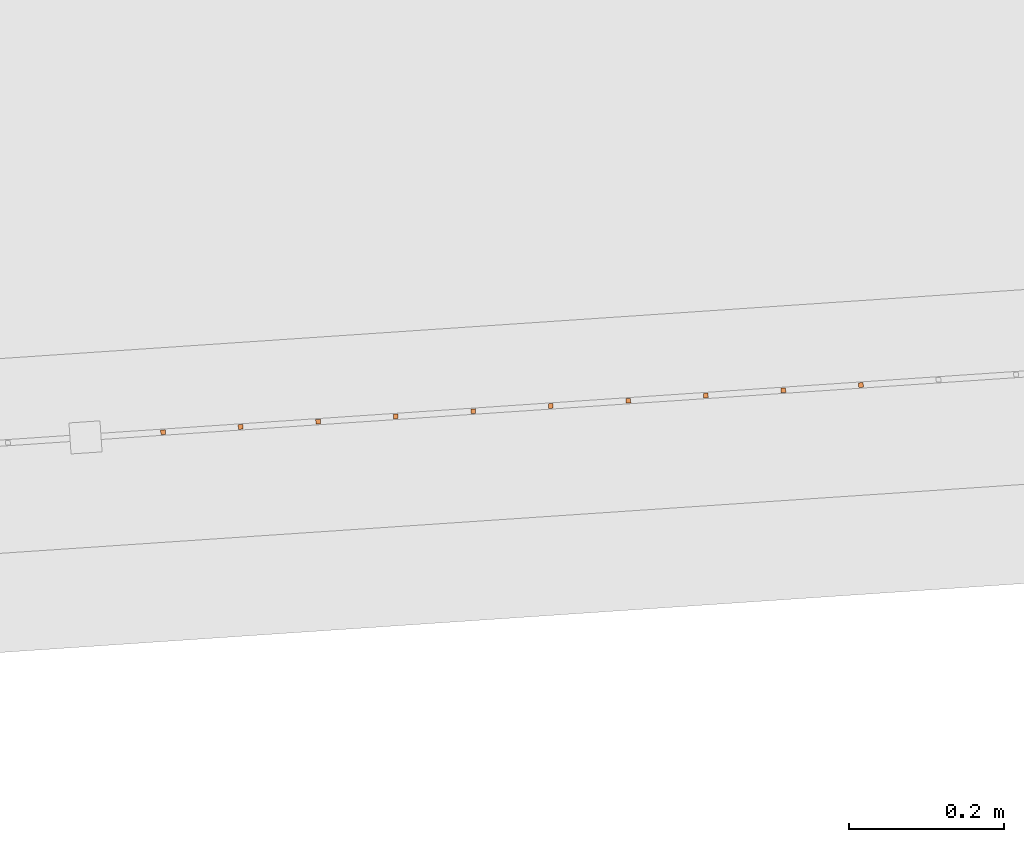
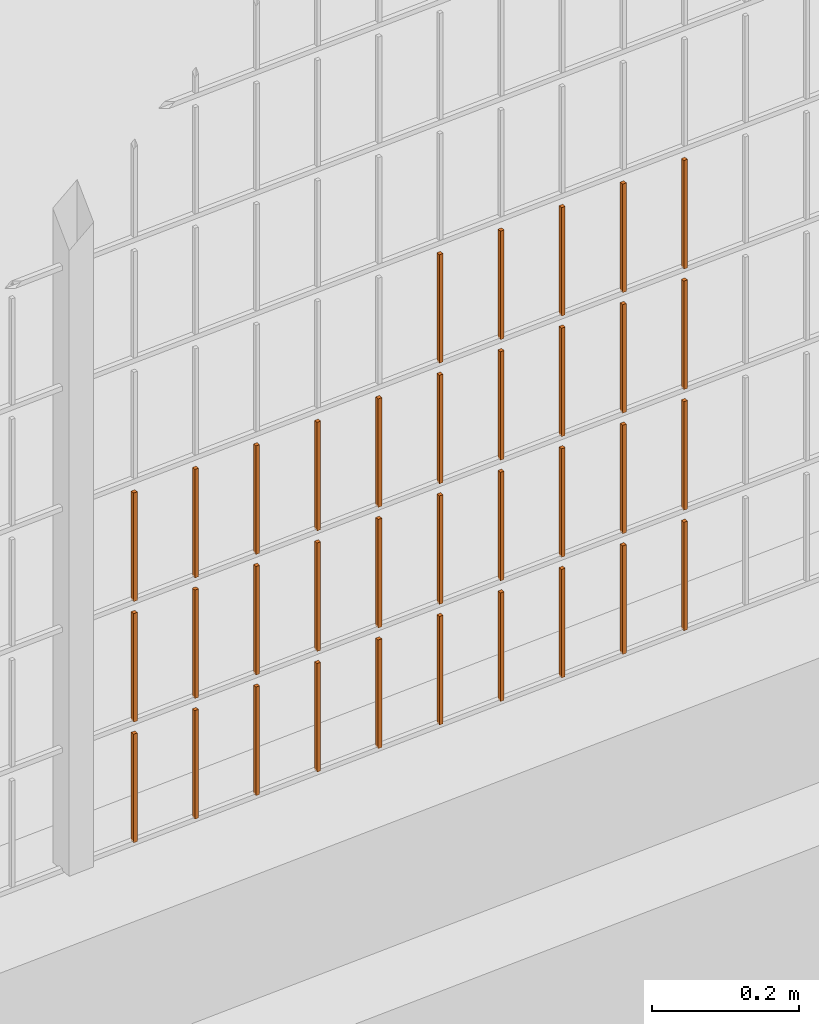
# One storey, part 277 of 1809: 35 proxies, 1 element without a shape of its own.
"""IFC2X3 building model written with IfcOpenShell, lengths in millimetres."""

from ifc_helpers import new_model, entity, si_unit, converted_unit, derived_unit, money_unit, direction, frame, origin_with_axes, place, context, subcontext, project, spatial, faceted_brep, source, transform, mapped, material, type_object, element, aggregate, save


model = new_model("IFC2X3")

# Units and contexts
model_context = context("Model", 3, precision=0.01, world=origin_with_axes(), true_north=direction((0.0, 1.0)))
body_context = subcontext(model_context, "Body", "Model", "MODEL_VIEW")
ifc_project = project(units=[si_unit("LENGTHUNIT", "METRE", prefix="MILLI"), si_unit("AREAUNIT", "SQUARE_METRE"), si_unit("VOLUMEUNIT", "CUBIC_METRE"), converted_unit("PLANEANGLEUNIT", "DEGREE", entity("IfcPlaneAngleMeasure", 0.0174532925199), si_unit("PLANEANGLEUNIT", "RADIAN"), dimensions=[0, 0, 0, 0, 0, 0, 0]), si_unit("SOLIDANGLEUNIT", "STERADIAN"), money_unit("EUR"), converted_unit("TIMEUNIT", "Year", entity("IfcTimeMeasure", 31556926.0), si_unit("TIMEUNIT", "SECOND"), dimensions=[0, 0, 1, 0, 0, 0, 0]), si_unit("MASSUNIT", "GRAM", prefix="KILO"), si_unit("THERMODYNAMICTEMPERATUREUNIT", "DEGREE_CELSIUS"), si_unit("LUMINOUSINTENSITYUNIT", "LUMEN"), si_unit("ENERGYUNIT", "JOULE", prefix="MEGA"), derived_unit("THERMALCONDUCTANCEUNIT", [(si_unit("POWERUNIT", "WATT"), 1), (si_unit("LENGTHUNIT", "METRE"), -1), (si_unit("THERMODYNAMICTEMPERATUREUNIT", "KELVIN"), -1)]), derived_unit("SPECIFICHEATCAPACITYUNIT", [(si_unit("ENERGYUNIT", "JOULE"), 1), (si_unit("MASSUNIT", "GRAM", prefix="KILO"), -1), (si_unit("THERMODYNAMICTEMPERATUREUNIT", "KELVIN"), -1)]), derived_unit("MASSDENSITYUNIT", [(si_unit("MASSUNIT", "GRAM", prefix="KILO"), 1), (si_unit("VOLUMEUNIT", "CUBIC_METRE"), -1)])], contexts=[model_context])

# Site, building, storey
site_placement = place(None, origin_with_axes())
site = spatial("IfcSite", under=ifc_project, at=site_placement, Name="Politse- ja Piirivalveameti ning Päästeameti ühishoone", CompositionType="ELEMENT")
building_placement = place(site_placement, origin_with_axes())
building = spatial("IfcBuilding", under=site, at=building_placement, Name="Politse- ja Piirivalveameti ning Päästeameti ühishoone", CompositionType="ELEMENT")
storey_placement = place(building_placement, origin_with_axes())
storey = spatial("IfcBuildingStorey", under=building, at=storey_placement, Name="Esimene korrus", CompositionType="ELEMENT", Elevation=0.0)

# Proxies
building_element_proxy_type_1 = type_object("IfcBuildingElementProxyType", Name="Railing Type", PredefinedType="NOTDEFINED")
proxy_1_placement = place(storey_placement, frame((89252.001212, -29183.4766571, 203.661247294), z_axis=(0.0, 0.0, 1.0), x_axis=(1.0, 0.0, 0.0)))
proxy_1 = element("IfcBuildingElementProxy", 1, at=proxy_1_placement, inside=storey, type_object=building_element_proxy_type_1, Name="PIIRDEAED")
ifc_material = material(Name="ET-03_Raud")
building_element_proxy_type_2 = type_object("IfcBuildingElementProxyType", Name="IfcBuildingElementProxy", PredefinedType="NOTDEFINED")
shared_shape_1 = source(origin_with_axes(), body_context, "Body", "Brep", [
    faceted_brep([(3.0, 3.0, -0.000752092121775), (-3.0, 3.0, -0.000752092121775), (-3.0, 3.0, 179.99926046), (3.0, 3.0, 179.99926046), (3.0, -3.0, 0.000752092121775), (-3.0, -3.0, 0.000752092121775), (-3.0, -3.0, 180.000764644), (3.0, -3.0, 180.000764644)], [[[0, 1, 2, 3]], [[0, 4, 5, 1]], [[1, 5, 6, 2]], [[3, 2, 6, 7]], [[4, 0, 3, 7]], [[5, 4, 7, 6]]]),
])
proxy_2_placement = place(proxy_1_placement, frame((-51908.4068673, -20803.9917502, 14.1914314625), z_axis=(0.0, 0.0, 1.0), x_axis=(1.0, 0.0, 0.0)))
proxy_2 = element("IfcBuildingElementProxy", 2, at=proxy_2_placement, type_object=building_element_proxy_type_2, material=ifc_material, Name="BALUSTER - 001", context=body_context, shape_type="MappedRepresentation", body=[
    mapped(shared_shape_1, transform((0.0, 0.0, 0.0), x_axis=(-0.0673926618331, 0.997726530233, 0.0), y_axis=(-0.997726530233, -0.0673926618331, 0.0), z_axis=(0.0, 0.0, 1.0))),
])
shared_shape_2 = source(origin_with_axes(), body_context, "Body", "Brep", [
    faceted_brep([(3.0, 3.0, -0.000752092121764), (-3.0, 3.0, -0.000752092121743), (-3.0, 3.0, 179.99926046), (3.0, 3.0, 179.99926046), (3.0, -3.0, 0.000752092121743), (-3.0, -3.0, 0.000752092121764), (-3.0, -3.0, 180.000764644), (3.0, -3.0, 180.000764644)], [[[0, 1, 2, 3]], [[0, 4, 5, 1]], [[1, 5, 6, 2]], [[3, 2, 6, 7]], [[4, 0, 3, 7]], [[5, 4, 7, 6]]]),
])
proxy_3_placement = place(proxy_1_placement, frame((-52008.1795203, -20810.7310164, 14.1663617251), z_axis=(0.0, 0.0, 1.0), x_axis=(1.0, 0.0, 0.0)))
proxy_3 = element("IfcBuildingElementProxy", 3, at=proxy_3_placement, type_object=building_element_proxy_type_2, material=ifc_material, Name="BALUSTER - 001", context=body_context, shape_type="MappedRepresentation", body=[
    mapped(shared_shape_2, transform((0.0, 0.0, 0.0), x_axis=(-0.0673926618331, 0.997726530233, 0.0), y_axis=(-0.997726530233, -0.0673926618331, 0.0), z_axis=(0.0, 0.0, 1.0))),
])
proxy_4_placement = place(proxy_1_placement, frame((-52008.1795203, -20810.7310164, 214.166361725), z_axis=(0.0, 0.0, 1.0), x_axis=(1.0, 0.0, 0.0)))
proxy_4 = element("IfcBuildingElementProxy", 4, at=proxy_4_placement, type_object=building_element_proxy_type_2, material=ifc_material, Name="BALUSTER - 001", context=body_context, shape_type="MappedRepresentation", body=[
    mapped(shared_shape_2, transform((0.0, 0.0, 0.0), x_axis=(-0.0673926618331, 0.997726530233, 0.0), y_axis=(-0.997726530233, -0.0673926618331, 0.0), z_axis=(0.0, 0.0, 1.0))),
])
shared_shape_3 = source(origin_with_axes(), body_context, "Body", "Brep", [
    faceted_brep([(3.0, 3.0, -0.000752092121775), (-3.0, 3.0, -0.000752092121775), (-3.0, 3.0, 179.99926046), (3.0, 3.0, 179.99926046), (3.0, -3.0, 0.000752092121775), (-3.0, -3.0, 0.000752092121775), (-3.0, -3.0, 180.000764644), (3.0, -3.0, 180.000764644)], [[[0, 1, 2, 3]], [[0, 4, 5, 1]], [[1, 5, 6, 2]], [[3, 2, 6, 7]], [[4, 0, 3, 7]], [[5, 4, 7, 6]]]),
])
proxy_5_placement = place(proxy_1_placement, frame((-51908.4068673, -20803.9917502, 414.191431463), z_axis=(0.0, 0.0, 1.0), x_axis=(1.0, 0.0, 0.0)))
proxy_5 = element("IfcBuildingElementProxy", 5, at=proxy_5_placement, type_object=building_element_proxy_type_2, material=ifc_material, Name="BALUSTER - 001", context=body_context, shape_type="MappedRepresentation", body=[
    mapped(shared_shape_3, transform((0.0, 0.0, 0.0), x_axis=(-0.0673926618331, 0.997726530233, 0.0), y_axis=(-0.997726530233, -0.0673926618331, 0.0), z_axis=(0.0, 0.0, 1.0))),
])
shared_shape_4 = source(origin_with_axes(), body_context, "Body", "Brep", [
    faceted_brep([(3.0, 3.0, -0.000752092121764), (-3.0, 3.0, -0.000752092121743), (-3.0, 3.0, 179.99926046), (3.0, 3.0, 179.99926046), (3.0, -3.0, 0.000752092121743), (-3.0, -3.0, 0.000752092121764), (-3.0, -3.0, 180.000764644), (3.0, -3.0, 180.000764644)], [[[0, 1, 2, 3]], [[0, 4, 5, 1]], [[1, 5, 6, 2]], [[3, 2, 6, 7]], [[4, 0, 3, 7]], [[5, 4, 7, 6]]]),
])
proxy_6_placement = place(proxy_1_placement, frame((-52008.1795203, -20810.7310164, 414.166361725), z_axis=(0.0, 0.0, 1.0), x_axis=(1.0, 0.0, 0.0)))
proxy_6 = element("IfcBuildingElementProxy", 6, at=proxy_6_placement, type_object=building_element_proxy_type_2, material=ifc_material, Name="BALUSTER - 001", context=body_context, shape_type="MappedRepresentation", body=[
    mapped(shared_shape_4, transform((0.0, 0.0, 0.0), x_axis=(-0.0673926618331, 0.997726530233, 0.0), y_axis=(-0.997726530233, -0.0673926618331, 0.0), z_axis=(0.0, 0.0, 1.0))),
])
shared_shape_5 = source(origin_with_axes(), body_context, "Body", "Brep", [
    faceted_brep([(3.0, 3.0, -0.000752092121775), (-3.0, 3.0, -0.000752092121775), (-3.0, 3.0, 179.99926046), (3.0, 3.0, 179.99926046), (3.0, -3.0, 0.000752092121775), (-3.0, -3.0, 0.000752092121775), (-3.0, -3.0, 180.000764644), (3.0, -3.0, 180.000764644)], [[[0, 1, 2, 3]], [[0, 4, 5, 1]], [[1, 5, 6, 2]], [[3, 2, 6, 7]], [[4, 0, 3, 7]], [[5, 4, 7, 6]]]),
])
proxy_7_placement = place(proxy_1_placement, frame((-51908.4068673, -20803.9917502, 214.191431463), z_axis=(0.0, 0.0, 1.0), x_axis=(1.0, 0.0, 0.0)))
proxy_7 = element("IfcBuildingElementProxy", 7, at=proxy_7_placement, type_object=building_element_proxy_type_2, material=ifc_material, Name="BALUSTER - 001", context=body_context, shape_type="MappedRepresentation", body=[
    mapped(shared_shape_5, transform((0.0, 0.0, 0.0), x_axis=(-0.0673926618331, 0.997726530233, 0.0), y_axis=(-0.997726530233, -0.0673926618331, 0.0), z_axis=(0.0, 0.0, 1.0))),
])
shared_shape_6 = source(origin_with_axes(), body_context, "Body", "Brep", [
    faceted_brep([(3.0, 3.0, -0.000752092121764), (-3.0, 3.0, -0.000752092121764), (-3.0, 3.0, 179.99926046), (3.0, 3.0, 179.99926046), (3.0, -3.0, 0.000752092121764), (-3.0, -3.0, 0.000752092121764), (-3.0, -3.0, 180.000764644), (3.0, -3.0, 180.000764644)], [[[0, 1, 2, 3]], [[0, 4, 5, 1]], [[1, 5, 6, 2]], [[3, 2, 6, 7]], [[4, 0, 3, 7]], [[5, 4, 7, 6]]]),
])
proxy_8_placement = place(proxy_1_placement, frame((-51409.5436022, -20770.2954193, 414.316780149), z_axis=(0.0, 0.0, 1.0), x_axis=(1.0, 0.0, 0.0)))
proxy_8 = element("IfcBuildingElementProxy", 8, at=proxy_8_placement, type_object=building_element_proxy_type_2, material=ifc_material, Name="BALUSTER - 001", context=body_context, shape_type="MappedRepresentation", body=[
    mapped(shared_shape_6, transform((0.0, 0.0, 0.0), x_axis=(-0.0673926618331, 0.997726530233, 0.0), y_axis=(-0.997726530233, -0.0673926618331, 0.0), z_axis=(0.0, 0.0, 1.0))),
])
proxy_9_placement = place(proxy_1_placement, frame((-52107.9521734, -20817.4702826, 414.141291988), z_axis=(0.0, 0.0, 1.0), x_axis=(1.0, 0.0, 0.0)))
proxy_9 = element("IfcBuildingElementProxy", 9, at=proxy_9_placement, type_object=building_element_proxy_type_2, material=ifc_material, Name="BALUSTER - 001", context=body_context, shape_type="MappedRepresentation", body=[
    mapped(shared_shape_6, transform((0.0, 0.0, 0.0), x_axis=(-0.0673926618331, 0.997726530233, 0.0), y_axis=(-0.997726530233, -0.0673926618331, 0.0), z_axis=(0.0, 0.0, 1.0))),
])
shared_shape_7 = source(origin_with_axes(), body_context, "Body", "Brep", [
    faceted_brep([(3.0, 3.0, -0.000752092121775), (-3.0, 3.0, -0.000752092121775), (-3.0, 3.0, 179.99926046), (3.0, 3.0, 179.99926046), (3.0, -3.0, 0.000752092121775), (-3.0, -3.0, 0.000752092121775), (-3.0, -3.0, 180.000764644), (3.0, -3.0, 180.000764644)], [[[0, 1, 2, 3]], [[0, 4, 5, 1]], [[1, 5, 6, 2]], [[3, 2, 6, 7]], [[4, 0, 3, 7]], [[5, 4, 7, 6]]]),
])
proxy_10_placement = place(proxy_1_placement, frame((-51708.8615613, -20790.5132179, 214.241570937), z_axis=(0.0, 0.0, 1.0), x_axis=(1.0, 0.0, 0.0)))
proxy_10 = element("IfcBuildingElementProxy", 10, at=proxy_10_placement, type_object=building_element_proxy_type_2, material=ifc_material, Name="BALUSTER - 001", context=body_context, shape_type="MappedRepresentation", body=[
    mapped(shared_shape_7, transform((0.0, 0.0, 0.0), x_axis=(-0.0673926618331, 0.997726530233, 0.0), y_axis=(-0.997726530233, -0.0673926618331, 0.0), z_axis=(0.0, 0.0, 1.0))),
])
shared_shape_8 = source(origin_with_axes(), body_context, "Body", "Brep", [
    faceted_brep([(3.0, 3.0, -0.000752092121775), (-3.0, 3.0, -0.000752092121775), (-3.0, 3.0, 179.99926046), (3.0, 3.0, 179.99926046), (3.0, -3.0, 0.000752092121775), (-3.0, -3.0, 0.000752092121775), (-3.0, -3.0, 180.000764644), (3.0, -3.0, 180.000764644)], [[[0, 1, 2, 3]], [[0, 4, 5, 1]], [[1, 5, 6, 2]], [[3, 2, 6, 7]], [[4, 0, 3, 7]], [[5, 4, 7, 6]]]),
])
proxy_11_placement = place(proxy_1_placement, frame((-51708.8615613, -20790.5132179, 414.241570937), z_axis=(0.0, 0.0, 1.0), x_axis=(1.0, 0.0, 0.0)))
proxy_11 = element("IfcBuildingElementProxy", 11, at=proxy_11_placement, type_object=building_element_proxy_type_2, material=ifc_material, Name="BALUSTER - 001", context=body_context, shape_type="MappedRepresentation", body=[
    mapped(shared_shape_8, transform((0.0, 0.0, 0.0), x_axis=(-0.0673926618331, 0.997726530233, 0.0), y_axis=(-0.997726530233, -0.0673926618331, 0.0), z_axis=(0.0, 0.0, 1.0))),
])
shared_shape_9 = source(origin_with_axes(), body_context, "Body", "Brep", [
    faceted_brep([(3.0, 3.0, -0.000752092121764), (-3.0, 3.0, -0.000752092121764), (-3.0, 3.0, 179.99926046), (3.0, 3.0, 179.99926046), (3.0, -3.0, 0.000752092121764), (-3.0, -3.0, 0.000752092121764), (-3.0, -3.0, 180.000764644), (3.0, -3.0, 180.000764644)], [[[0, 1, 2, 3]], [[0, 4, 5, 1]], [[1, 5, 6, 2]], [[3, 2, 6, 7]], [[4, 0, 3, 7]], [[5, 4, 7, 6]]]),
])
proxy_12_placement = place(proxy_1_placement, frame((-51309.7709492, -20763.5561531, 414.341849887), z_axis=(0.0, 0.0, 1.0), x_axis=(1.0, 0.0, 0.0)))
proxy_12 = element("IfcBuildingElementProxy", 12, at=proxy_12_placement, type_object=building_element_proxy_type_2, material=ifc_material, Name="BALUSTER - 001", context=body_context, shape_type="MappedRepresentation", body=[
    mapped(shared_shape_9, transform((0.0, 0.0, 0.0), x_axis=(-0.0673926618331, 0.997726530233, 0.0), y_axis=(-0.997726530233, -0.0673926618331, 0.0), z_axis=(0.0, 0.0, 1.0))),
])
proxy_13_placement = place(proxy_1_placement, frame((-51309.7709492, -20763.5561531, 614.341849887), z_axis=(0.0, 0.0, 1.0), x_axis=(1.0, 0.0, 0.0)))
proxy_13 = element("IfcBuildingElementProxy", 13, at=proxy_13_placement, type_object=building_element_proxy_type_2, material=ifc_material, Name="BALUSTER - 001", context=body_context, shape_type="MappedRepresentation", body=[
    mapped(shared_shape_9, transform((0.0, 0.0, 0.0), x_axis=(-0.0673926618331, 0.997726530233, 0.0), y_axis=(-0.997726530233, -0.0673926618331, 0.0), z_axis=(0.0, 0.0, 1.0))),
])
shared_shape_10 = source(origin_with_axes(), body_context, "Body", "Brep", [
    faceted_brep([(3.0, 3.0, -0.000752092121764), (-3.0, 3.0, -0.000752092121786), (-3.0, 3.0, 179.99926046), (3.0, 3.0, 179.99926046), (3.0, -3.0, 0.000752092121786), (-3.0, -3.0, 0.000752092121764), (-3.0, -3.0, 180.000764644), (3.0, -3.0, 180.000764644)], [[[0, 1, 2, 3]], [[0, 4, 5, 1]], [[1, 5, 6, 2]], [[3, 2, 6, 7]], [[4, 0, 3, 7]], [[5, 4, 7, 6]]]),
])
proxy_14_placement = place(proxy_1_placement, frame((-51609.0889082, -20783.7739517, 214.266640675), z_axis=(0.0, 0.0, 1.0), x_axis=(1.0, 0.0, 0.0)))
proxy_14 = element("IfcBuildingElementProxy", 14, at=proxy_14_placement, type_object=building_element_proxy_type_2, material=ifc_material, Name="BALUSTER - 001", context=body_context, shape_type="MappedRepresentation", body=[
    mapped(shared_shape_10, transform((0.0, 0.0, 0.0), x_axis=(-0.0673926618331, 0.997726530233, 0.0), y_axis=(-0.997726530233, -0.0673926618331, 0.0), z_axis=(0.0, 0.0, 1.0))),
])
proxy_15_placement = place(proxy_1_placement, frame((-51609.0889082, -20783.7739517, 414.266640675), z_axis=(0.0, 0.0, 1.0), x_axis=(1.0, 0.0, 0.0)))
proxy_15 = element("IfcBuildingElementProxy", 15, at=proxy_15_placement, type_object=building_element_proxy_type_2, material=ifc_material, Name="BALUSTER - 001", context=body_context, shape_type="MappedRepresentation", body=[
    mapped(shared_shape_10, transform((0.0, 0.0, 0.0), x_axis=(-0.0673926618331, 0.997726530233, 0.0), y_axis=(-0.997726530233, -0.0673926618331, 0.0), z_axis=(0.0, 0.0, 1.0))),
])
shared_shape_11 = source(origin_with_axes(), body_context, "Body", "Brep", [
    faceted_brep([(3.0, 3.0, -0.000752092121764), (-3.0, 3.0, -0.000752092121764), (-3.0, 3.0, 179.99926046), (3.0, 3.0, 179.99926046), (3.0, -3.0, 0.000752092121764), (-3.0, -3.0, 0.000752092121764), (-3.0, -3.0, 180.000764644), (3.0, -3.0, 180.000764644)], [[[0, 1, 2, 3]], [[0, 4, 5, 1]], [[1, 5, 6, 2]], [[3, 2, 6, 7]], [[4, 0, 3, 7]], [[5, 4, 7, 6]]]),
])
proxy_16_placement = place(proxy_1_placement, frame((-51409.5436022, -20770.2954193, 614.316780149), z_axis=(0.0, 0.0, 1.0), x_axis=(1.0, 0.0, 0.0)))
proxy_16 = element("IfcBuildingElementProxy", 16, at=proxy_16_placement, type_object=building_element_proxy_type_2, material=ifc_material, Name="BALUSTER - 001", context=body_context, shape_type="MappedRepresentation", body=[
    mapped(shared_shape_11, transform((0.0, 0.0, 0.0), x_axis=(-0.0673926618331, 0.997726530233, 0.0), y_axis=(-0.997726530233, -0.0673926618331, 0.0), z_axis=(0.0, 0.0, 1.0))),
])
shared_shape_12 = source(origin_with_axes(), body_context, "Body", "Brep", [
    faceted_brep([(3.0, 3.0, -0.000752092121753), (-3.0, 3.0, -0.000752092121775), (-3.0, 3.0, 179.99926046), (3.0, 3.0, 179.99926046), (3.0, -3.0, 0.000752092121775), (-3.0, -3.0, 0.000752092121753), (-3.0, -3.0, 180.000764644), (3.0, -3.0, 180.000764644)], [[[0, 1, 2, 3]], [[0, 4, 5, 1]], [[1, 5, 6, 2]], [[3, 2, 6, 7]], [[4, 0, 3, 7]], [[5, 4, 7, 6]]]),
])
proxy_17_placement = place(proxy_1_placement, frame((-51808.6342143, -20797.252484, 214.2165012), z_axis=(0.0, 0.0, 1.0), x_axis=(1.0, 0.0, 0.0)))
proxy_17 = element("IfcBuildingElementProxy", 17, at=proxy_17_placement, type_object=building_element_proxy_type_2, material=ifc_material, Name="BALUSTER - 001", context=body_context, shape_type="MappedRepresentation", body=[
    mapped(shared_shape_12, transform((0.0, 0.0, 0.0), x_axis=(-0.0673926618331, 0.997726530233, 0.0), y_axis=(-0.997726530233, -0.0673926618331, 0.0), z_axis=(0.0, 0.0, 1.0))),
])
proxy_18_placement = place(proxy_1_placement, frame((-51808.6342143, -20797.252484, 414.2165012), z_axis=(0.0, 0.0, 1.0), x_axis=(1.0, 0.0, 0.0)))
proxy_18 = element("IfcBuildingElementProxy", 18, at=proxy_18_placement, type_object=building_element_proxy_type_2, material=ifc_material, Name="BALUSTER - 001", context=body_context, shape_type="MappedRepresentation", body=[
    mapped(shared_shape_12, transform((0.0, 0.0, 0.0), x_axis=(-0.0673926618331, 0.997726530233, 0.0), y_axis=(-0.997726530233, -0.0673926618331, 0.0), z_axis=(0.0, 0.0, 1.0))),
])
shared_shape_13 = source(origin_with_axes(), body_context, "Body", "Brep", [
    faceted_brep([(3.0, 3.0, -0.000752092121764), (-3.0, 3.0, -0.000752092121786), (-3.0, 3.0, 179.99926046), (3.0, 3.0, 179.99926046), (3.0, -3.0, 0.000752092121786), (-3.0, -3.0, 0.000752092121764), (-3.0, -3.0, 180.000764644), (3.0, -3.0, 180.000764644)], [[[0, 1, 2, 3]], [[0, 4, 5, 1]], [[1, 5, 6, 2]], [[3, 2, 6, 7]], [[4, 0, 3, 7]], [[5, 4, 7, 6]]]),
])
proxy_19_placement = place(proxy_1_placement, frame((-51609.0889082, -20783.7739517, 614.266640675), z_axis=(0.0, 0.0, 1.0), x_axis=(1.0, 0.0, 0.0)))
proxy_19 = element("IfcBuildingElementProxy", 19, at=proxy_19_placement, type_object=building_element_proxy_type_2, material=ifc_material, Name="BALUSTER - 001", context=body_context, shape_type="MappedRepresentation", body=[
    mapped(shared_shape_13, transform((0.0, 0.0, 0.0), x_axis=(-0.0673926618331, 0.997726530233, 0.0), y_axis=(-0.997726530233, -0.0673926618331, 0.0), z_axis=(0.0, 0.0, 1.0))),
])
shared_shape_14 = source(origin_with_axes(), body_context, "Body", "Brep", [
    faceted_brep([(3.0, 3.0, -0.000752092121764), (-3.0, 3.0, -0.000752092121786), (-3.0, 3.0, 179.99926046), (3.0, 3.0, 179.99926046), (3.0, -3.0, 0.000752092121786), (-3.0, -3.0, 0.000752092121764), (-3.0, -3.0, 180.000764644), (3.0, -3.0, 180.000764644)], [[[0, 1, 2, 3]], [[0, 4, 5, 1]], [[1, 5, 6, 2]], [[3, 2, 6, 7]], [[4, 0, 3, 7]], [[5, 4, 7, 6]]]),
])
proxy_20_placement = place(proxy_1_placement, frame((-51609.0889082, -20783.7739517, 14.2666406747), z_axis=(0.0, 0.0, 1.0), x_axis=(1.0, 0.0, 0.0)))
proxy_20 = element("IfcBuildingElementProxy", 20, at=proxy_20_placement, type_object=building_element_proxy_type_2, material=ifc_material, Name="BALUSTER - 001", context=body_context, shape_type="MappedRepresentation", body=[
    mapped(shared_shape_14, transform((0.0, 0.0, 0.0), x_axis=(-0.0673926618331, 0.997726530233, 0.0), y_axis=(-0.997726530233, -0.0673926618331, 0.0), z_axis=(0.0, 0.0, 1.0))),
])
shared_shape_15 = source(origin_with_axes(), body_context, "Body", "Brep", [
    faceted_brep([(3.0, 3.0, -0.000752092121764), (-3.0, 3.0, -0.000752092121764), (-3.0, 3.0, 179.99926046), (3.0, 3.0, 179.99926046), (3.0, -3.0, 0.000752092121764), (-3.0, -3.0, 0.000752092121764), (-3.0, -3.0, 180.000764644), (3.0, -3.0, 180.000764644)], [[[0, 1, 2, 3]], [[0, 4, 5, 1]], [[1, 5, 6, 2]], [[3, 2, 6, 7]], [[4, 0, 3, 7]], [[5, 4, 7, 6]]]),
])
proxy_21_placement = place(proxy_1_placement, frame((-51209.9982961, -20756.8168869, 14.3669196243), z_axis=(0.0, 0.0, 1.0), x_axis=(1.0, 0.0, 0.0)))
proxy_21 = element("IfcBuildingElementProxy", 21, at=proxy_21_placement, type_object=building_element_proxy_type_2, material=ifc_material, Name="BALUSTER - 001", context=body_context, shape_type="MappedRepresentation", body=[
    mapped(shared_shape_15, transform((0.0, 0.0, 0.0), x_axis=(-0.0673926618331, 0.997726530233, 0.0), y_axis=(-0.997726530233, -0.0673926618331, 0.0), z_axis=(0.0, 0.0, 1.0))),
])
shared_shape_16 = source(origin_with_axes(), body_context, "Body", "Brep", [
    faceted_brep([(3.0, 3.0, -0.000752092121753), (-3.0, 3.0, -0.000752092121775), (-3.0, 3.0, 179.99926046), (3.0, 3.0, 179.99926046), (3.0, -3.0, 0.000752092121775), (-3.0, -3.0, 0.000752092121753), (-3.0, -3.0, 180.000764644), (3.0, -3.0, 180.000764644)], [[[0, 1, 2, 3]], [[0, 4, 5, 1]], [[1, 5, 6, 2]], [[3, 2, 6, 7]], [[4, 0, 3, 7]], [[5, 4, 7, 6]]]),
])
proxy_22_placement = place(proxy_1_placement, frame((-51808.6342143, -20797.252484, 14.2165011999), z_axis=(0.0, 0.0, 1.0), x_axis=(1.0, 0.0, 0.0)))
proxy_22 = element("IfcBuildingElementProxy", 22, at=proxy_22_placement, type_object=building_element_proxy_type_2, material=ifc_material, Name="BALUSTER - 001", context=body_context, shape_type="MappedRepresentation", body=[
    mapped(shared_shape_16, transform((0.0, 0.0, 0.0), x_axis=(-0.0673926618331, 0.997726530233, 0.0), y_axis=(-0.997726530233, -0.0673926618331, 0.0), z_axis=(0.0, 0.0, 1.0))),
])
shared_shape_17 = source(origin_with_axes(), body_context, "Body", "Brep", [
    faceted_brep([(3.0, 3.0, -0.000752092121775), (-3.0, 3.0, -0.000752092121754), (-3.0, 3.0, 179.99926046), (3.0, 3.0, 179.99926046), (3.0, -3.0, 0.000752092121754), (-3.0, -3.0, 0.000752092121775), (-3.0, -3.0, 180.000764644), (3.0, -3.0, 180.000764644)], [[[0, 1, 2, 3]], [[0, 4, 5, 1]], [[1, 5, 6, 2]], [[3, 2, 6, 7]], [[4, 0, 3, 7]], [[5, 4, 7, 6]]]),
])
proxy_23_placement = place(proxy_1_placement, frame((-51509.3162552, -20777.0346855, 414.291710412), z_axis=(0.0, 0.0, 1.0), x_axis=(1.0, 0.0, 0.0)))
proxy_23 = element("IfcBuildingElementProxy", 23, at=proxy_23_placement, type_object=building_element_proxy_type_2, material=ifc_material, Name="BALUSTER - 001", context=body_context, shape_type="MappedRepresentation", body=[
    mapped(shared_shape_17, transform((0.0, 0.0, 0.0), x_axis=(-0.0673926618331, 0.997726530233, 0.0), y_axis=(-0.997726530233, -0.0673926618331, 0.0), z_axis=(0.0, 0.0, 1.0))),
])
shared_shape_18 = source(origin_with_axes(), body_context, "Body", "Brep", [
    faceted_brep([(3.0, 3.0, -0.000752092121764), (-3.0, 3.0, -0.000752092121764), (-3.0, 3.0, 179.99926046), (3.0, 3.0, 179.99926046), (3.0, -3.0, 0.000752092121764), (-3.0, -3.0, 0.000752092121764), (-3.0, -3.0, 180.000764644), (3.0, -3.0, 180.000764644)], [[[0, 1, 2, 3]], [[0, 4, 5, 1]], [[1, 5, 6, 2]], [[3, 2, 6, 7]], [[4, 0, 3, 7]], [[5, 4, 7, 6]]]),
])
proxy_24_placement = place(proxy_1_placement, frame((-51209.9982961, -20756.8168869, 414.366919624), z_axis=(0.0, 0.0, 1.0), x_axis=(1.0, 0.0, 0.0)))
proxy_24 = element("IfcBuildingElementProxy", 24, at=proxy_24_placement, type_object=building_element_proxy_type_2, material=ifc_material, Name="BALUSTER - 001", context=body_context, shape_type="MappedRepresentation", body=[
    mapped(shared_shape_18, transform((0.0, 0.0, 0.0), x_axis=(-0.0673926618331, 0.997726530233, 0.0), y_axis=(-0.997726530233, -0.0673926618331, 0.0), z_axis=(0.0, 0.0, 1.0))),
])
proxy_25_placement = place(proxy_1_placement, frame((-51209.9982961, -20756.8168869, 614.366919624), z_axis=(0.0, 0.0, 1.0), x_axis=(1.0, 0.0, 0.0)))
proxy_25 = element("IfcBuildingElementProxy", 25, at=proxy_25_placement, type_object=building_element_proxy_type_2, material=ifc_material, Name="BALUSTER - 001", context=body_context, shape_type="MappedRepresentation", body=[
    mapped(shared_shape_18, transform((0.0, 0.0, 0.0), x_axis=(-0.0673926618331, 0.997726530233, 0.0), y_axis=(-0.997726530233, -0.0673926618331, 0.0), z_axis=(0.0, 0.0, 1.0))),
])
shared_shape_19 = source(origin_with_axes(), body_context, "Body", "Brep", [
    faceted_brep([(3.0, 3.0, -0.000752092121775), (-3.0, 3.0, -0.000752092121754), (-3.0, 3.0, 179.99926046), (3.0, 3.0, 179.99926046), (3.0, -3.0, 0.000752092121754), (-3.0, -3.0, 0.000752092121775), (-3.0, -3.0, 180.000764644), (3.0, -3.0, 180.000764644)], [[[0, 1, 2, 3]], [[0, 4, 5, 1]], [[1, 5, 6, 2]], [[3, 2, 6, 7]], [[4, 0, 3, 7]], [[5, 4, 7, 6]]]),
])
proxy_26_placement = place(proxy_1_placement, frame((-51509.3162552, -20777.0346855, 214.291710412), z_axis=(0.0, 0.0, 1.0), x_axis=(1.0, 0.0, 0.0)))
proxy_26 = element("IfcBuildingElementProxy", 26, at=proxy_26_placement, type_object=building_element_proxy_type_2, material=ifc_material, Name="BALUSTER - 001", context=body_context, shape_type="MappedRepresentation", body=[
    mapped(shared_shape_19, transform((0.0, 0.0, 0.0), x_axis=(-0.0673926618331, 0.997726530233, 0.0), y_axis=(-0.997726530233, -0.0673926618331, 0.0), z_axis=(0.0, 0.0, 1.0))),
])
shared_shape_20 = source(origin_with_axes(), body_context, "Body", "Brep", [
    faceted_brep([(3.0, 3.0, -0.000752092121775), (-3.0, 3.0, -0.000752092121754), (-3.0, 3.0, 179.99926046), (3.0, 3.0, 179.99926046), (3.0, -3.0, 0.000752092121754), (-3.0, -3.0, 0.000752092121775), (-3.0, -3.0, 180.000764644), (3.0, -3.0, 180.000764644)], [[[0, 1, 2, 3]], [[0, 4, 5, 1]], [[1, 5, 6, 2]], [[3, 2, 6, 7]], [[4, 0, 3, 7]], [[5, 4, 7, 6]]]),
])
proxy_27_placement = place(proxy_1_placement, frame((-51509.3162552, -20777.0346855, 614.291710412), z_axis=(0.0, 0.0, 1.0), x_axis=(1.0, 0.0, 0.0)))
proxy_27 = element("IfcBuildingElementProxy", 27, at=proxy_27_placement, type_object=building_element_proxy_type_2, material=ifc_material, Name="BALUSTER - 001", context=body_context, shape_type="MappedRepresentation", body=[
    mapped(shared_shape_20, transform((0.0, 0.0, 0.0), x_axis=(-0.0673926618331, 0.997726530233, 0.0), y_axis=(-0.997726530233, -0.0673926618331, 0.0), z_axis=(0.0, 0.0, 1.0))),
])
shared_shape_21 = source(origin_with_axes(), body_context, "Body", "Brep", [
    faceted_brep([(3.0, 3.0, -0.000752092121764), (-3.0, 3.0, -0.000752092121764), (-3.0, 3.0, 179.99926046), (3.0, 3.0, 179.99926046), (3.0, -3.0, 0.000752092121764), (-3.0, -3.0, 0.000752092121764), (-3.0, -3.0, 180.000764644), (3.0, -3.0, 180.000764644)], [[[0, 1, 2, 3]], [[0, 4, 5, 1]], [[1, 5, 6, 2]], [[3, 2, 6, 7]], [[4, 0, 3, 7]], [[5, 4, 7, 6]]]),
])
proxy_28_placement = place(proxy_1_placement, frame((-51309.7709492, -20763.5561531, 14.3418498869), z_axis=(0.0, 0.0, 1.0), x_axis=(1.0, 0.0, 0.0)))
proxy_28 = element("IfcBuildingElementProxy", 28, at=proxy_28_placement, type_object=building_element_proxy_type_2, material=ifc_material, Name="BALUSTER - 001", context=body_context, shape_type="MappedRepresentation", body=[
    mapped(shared_shape_21, transform((0.0, 0.0, 0.0), x_axis=(-0.0673926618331, 0.997726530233, 0.0), y_axis=(-0.997726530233, -0.0673926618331, 0.0), z_axis=(0.0, 0.0, 1.0))),
])
shared_shape_22 = source(origin_with_axes(), body_context, "Body", "Brep", [
    faceted_brep([(3.0, 3.0, -0.000752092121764), (-3.0, 3.0, -0.000752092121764), (-3.0, 3.0, 179.99926046), (3.0, 3.0, 179.99926046), (3.0, -3.0, 0.000752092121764), (-3.0, -3.0, 0.000752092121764), (-3.0, -3.0, 180.000764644), (3.0, -3.0, 180.000764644)], [[[0, 1, 2, 3]], [[0, 4, 5, 1]], [[1, 5, 6, 2]], [[3, 2, 6, 7]], [[4, 0, 3, 7]], [[5, 4, 7, 6]]]),
])
proxy_29_placement = place(proxy_1_placement, frame((-51309.7709492, -20763.5561531, 214.341849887), z_axis=(0.0, 0.0, 1.0), x_axis=(1.0, 0.0, 0.0)))
proxy_29 = element("IfcBuildingElementProxy", 29, at=proxy_29_placement, type_object=building_element_proxy_type_2, material=ifc_material, Name="BALUSTER - 001", context=body_context, shape_type="MappedRepresentation", body=[
    mapped(shared_shape_22, transform((0.0, 0.0, 0.0), x_axis=(-0.0673926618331, 0.997726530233, 0.0), y_axis=(-0.997726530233, -0.0673926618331, 0.0), z_axis=(0.0, 0.0, 1.0))),
])
shared_shape_23 = source(origin_with_axes(), body_context, "Body", "Brep", [
    faceted_brep([(3.0, 3.0, -0.000752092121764), (-3.0, 3.0, -0.000752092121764), (-3.0, 3.0, 179.99926046), (3.0, 3.0, 179.99926046), (3.0, -3.0, 0.000752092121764), (-3.0, -3.0, 0.000752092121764), (-3.0, -3.0, 180.000764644), (3.0, -3.0, 180.000764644)], [[[0, 1, 2, 3]], [[0, 4, 5, 1]], [[1, 5, 6, 2]], [[3, 2, 6, 7]], [[4, 0, 3, 7]], [[5, 4, 7, 6]]]),
])
proxy_30_placement = place(proxy_1_placement, frame((-51209.9982961, -20756.8168869, 214.366919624), z_axis=(0.0, 0.0, 1.0), x_axis=(1.0, 0.0, 0.0)))
proxy_30 = element("IfcBuildingElementProxy", 30, at=proxy_30_placement, type_object=building_element_proxy_type_2, material=ifc_material, Name="BALUSTER - 001", context=body_context, shape_type="MappedRepresentation", body=[
    mapped(shared_shape_23, transform((0.0, 0.0, 0.0), x_axis=(-0.0673926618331, 0.997726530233, 0.0), y_axis=(-0.997726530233, -0.0673926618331, 0.0), z_axis=(0.0, 0.0, 1.0))),
])
shared_shape_24 = source(origin_with_axes(), body_context, "Body", "Brep", [
    faceted_brep([(3.0, 3.0, -0.000752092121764), (-3.0, 3.0, -0.000752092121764), (-3.0, 3.0, 179.99926046), (3.0, 3.0, 179.99926046), (3.0, -3.0, 0.000752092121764), (-3.0, -3.0, 0.000752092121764), (-3.0, -3.0, 180.000764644), (3.0, -3.0, 180.000764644)], [[[0, 1, 2, 3]], [[0, 4, 5, 1]], [[1, 5, 6, 2]], [[3, 2, 6, 7]], [[4, 0, 3, 7]], [[5, 4, 7, 6]]]),
])
proxy_31_placement = place(proxy_1_placement, frame((-51409.5436022, -20770.2954193, 14.3167801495), z_axis=(0.0, 0.0, 1.0), x_axis=(1.0, 0.0, 0.0)))
proxy_31 = element("IfcBuildingElementProxy", 31, at=proxy_31_placement, type_object=building_element_proxy_type_2, material=ifc_material, Name="BALUSTER - 001", context=body_context, shape_type="MappedRepresentation", body=[
    mapped(shared_shape_24, transform((0.0, 0.0, 0.0), x_axis=(-0.0673926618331, 0.997726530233, 0.0), y_axis=(-0.997726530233, -0.0673926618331, 0.0), z_axis=(0.0, 0.0, 1.0))),
])
proxy_32_placement = place(proxy_1_placement, frame((-52107.9521734, -20817.4702826, 14.1412919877), z_axis=(0.0, 0.0, 1.0), x_axis=(1.0, 0.0, 0.0)))
proxy_32 = element("IfcBuildingElementProxy", 32, at=proxy_32_placement, type_object=building_element_proxy_type_2, material=ifc_material, Name="BALUSTER - 001", context=body_context, shape_type="MappedRepresentation", body=[
    mapped(shared_shape_24, transform((0.0, 0.0, 0.0), x_axis=(-0.0673926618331, 0.997726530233, 0.0), y_axis=(-0.997726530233, -0.0673926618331, 0.0), z_axis=(0.0, 0.0, 1.0))),
])
proxy_33_placement = place(proxy_1_placement, frame((-51409.5436022, -20770.2954193, 214.316780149), z_axis=(0.0, 0.0, 1.0), x_axis=(1.0, 0.0, 0.0)))
proxy_33 = element("IfcBuildingElementProxy", 33, at=proxy_33_placement, type_object=building_element_proxy_type_2, material=ifc_material, Name="BALUSTER - 001", context=body_context, shape_type="MappedRepresentation", body=[
    mapped(shared_shape_24, transform((0.0, 0.0, 0.0), x_axis=(-0.0673926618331, 0.997726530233, 0.0), y_axis=(-0.997726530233, -0.0673926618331, 0.0), z_axis=(0.0, 0.0, 1.0))),
])
proxy_34_placement = place(proxy_1_placement, frame((-52107.9521734, -20817.4702826, 214.141291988), z_axis=(0.0, 0.0, 1.0), x_axis=(1.0, 0.0, 0.0)))
proxy_34 = element("IfcBuildingElementProxy", 34, at=proxy_34_placement, type_object=building_element_proxy_type_2, material=ifc_material, Name="BALUSTER - 001", context=body_context, shape_type="MappedRepresentation", body=[
    mapped(shared_shape_24, transform((0.0, 0.0, 0.0), x_axis=(-0.0673926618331, 0.997726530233, 0.0), y_axis=(-0.997726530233, -0.0673926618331, 0.0), z_axis=(0.0, 0.0, 1.0))),
])
shared_shape_25 = source(origin_with_axes(), body_context, "Body", "Brep", [
    faceted_brep([(3.0, 3.0, -0.000752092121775), (-3.0, 3.0, -0.000752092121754), (-3.0, 3.0, 179.99926046), (3.0, 3.0, 179.99926046), (3.0, -3.0, 0.000752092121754), (-3.0, -3.0, 0.000752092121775), (-3.0, -3.0, 180.000764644), (3.0, -3.0, 180.000764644)], [[[0, 1, 2, 3]], [[0, 4, 5, 1]], [[1, 5, 6, 2]], [[3, 2, 6, 7]], [[4, 0, 3, 7]], [[5, 4, 7, 6]]]),
])
proxy_35_placement = place(proxy_1_placement, frame((-51509.3162552, -20777.0346855, 14.2917104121), z_axis=(0.0, 0.0, 1.0), x_axis=(1.0, 0.0, 0.0)))
proxy_35 = element("IfcBuildingElementProxy", 35, at=proxy_35_placement, type_object=building_element_proxy_type_2, material=ifc_material, Name="BALUSTER - 001", context=body_context, shape_type="MappedRepresentation", body=[
    mapped(shared_shape_25, transform((0.0, 0.0, 0.0), x_axis=(-0.0673926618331, 0.997726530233, 0.0), y_axis=(-0.997726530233, -0.0673926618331, 0.0), z_axis=(0.0, 0.0, 1.0))),
])
shared_shape_26 = source(origin_with_axes(), body_context, "Body", "Brep", [
    faceted_brep([(3.0, 3.0, -0.000752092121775), (-3.0, 3.0, -0.000752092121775), (-3.0, 3.0, 179.99926046), (3.0, 3.0, 179.99926046), (3.0, -3.0, 0.000752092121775), (-3.0, -3.0, 0.000752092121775), (-3.0, -3.0, 180.000764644), (3.0, -3.0, 180.000764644)], [[[0, 1, 2, 3]], [[0, 4, 5, 1]], [[1, 5, 6, 2]], [[3, 2, 6, 7]], [[4, 0, 3, 7]], [[5, 4, 7, 6]]]),
])
proxy_36_placement = place(proxy_1_placement, frame((-51708.8615613, -20790.5132179, 14.2415709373), z_axis=(0.0, 0.0, 1.0), x_axis=(1.0, 0.0, 0.0)))
proxy_36 = element("IfcBuildingElementProxy", 36, at=proxy_36_placement, type_object=building_element_proxy_type_2, material=ifc_material, Name="BALUSTER - 001", context=body_context, shape_type="MappedRepresentation", body=[
    mapped(shared_shape_26, transform((0.0, 0.0, 0.0), x_axis=(-0.0673926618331, 0.997726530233, 0.0), y_axis=(-0.997726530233, -0.0673926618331, 0.0), z_axis=(0.0, 0.0, 1.0))),
])
aggregate(proxy_1, [proxy_21, proxy_28, proxy_31, proxy_35, proxy_20, proxy_36, proxy_22, proxy_2, proxy_3, proxy_32, proxy_30, proxy_29, proxy_33, proxy_26, proxy_14, proxy_10, proxy_17, proxy_7, proxy_4, proxy_34, proxy_24, proxy_12, proxy_8, proxy_23, proxy_15, proxy_11, proxy_18, proxy_5, proxy_6, proxy_9, proxy_25, proxy_13, proxy_16, proxy_27, proxy_19])

save(model, "model.ifc")
